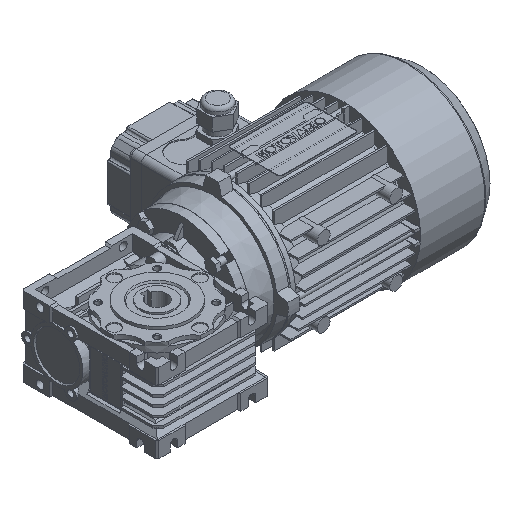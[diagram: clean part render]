
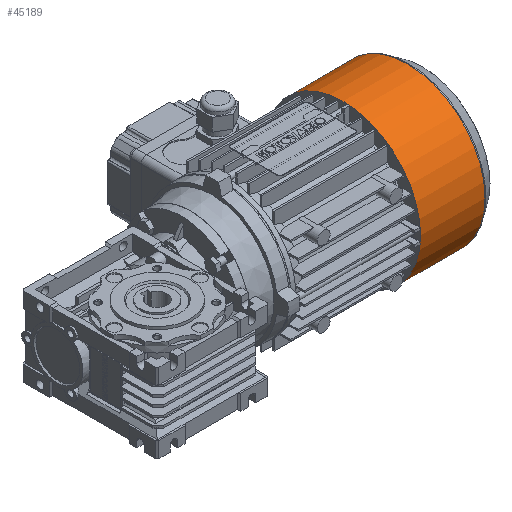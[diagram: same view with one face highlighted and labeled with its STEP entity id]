
A CAD part, isometric view. The second image highlights one B-rep face of the part: STEP entity #45189.
In plain terms, the highlighted cylindrical face has radius 69.45 mm (diameter 138.9 mm), a full revolution.
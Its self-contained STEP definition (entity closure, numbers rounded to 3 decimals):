
#17041=ORIENTED_EDGE('',*,*,#27289,.F.);
#17042=ORIENTED_EDGE('',*,*,#27288,.T.);
#27288=EDGE_CURVE('',#32980,#32980,#36690,.T.);
#27289=EDGE_CURVE('',#32981,#32981,#36691,.T.);
#32980=VERTEX_POINT('',#77769);
#32981=VERTEX_POINT('',#77772);
#36690=CIRCLE('',#55024,69.45);
#36691=CIRCLE('',#55026,69.45);
#38824=EDGE_LOOP('',(#17041));
#38825=EDGE_LOOP('',(#17042));
#41585=FACE_BOUND('',#38824,.T.);
#41586=FACE_BOUND('',#38825,.T.);
#43728=CYLINDRICAL_SURFACE('',#55025,69.45);
#45189=ADVANCED_FACE('',(#41585,#41586),#43728,.T.);
#55024=AXIS2_PLACEMENT_3D('',#77768,#64358,#64359);
#55025=AXIS2_PLACEMENT_3D('',#77770,#64360,#64361);
#55026=AXIS2_PLACEMENT_3D('',#77771,#64362,#64363);
#64358=DIRECTION('',(1.,0.,0.));
#64359=DIRECTION('',(0.,0.,-1.));
#64360=DIRECTION('',(1.,0.,0.));
#64361=DIRECTION('',(0.,0.,-1.));
#64362=DIRECTION('',(1.,0.,0.));
#64363=DIRECTION('',(0.,0.,-1.));
#77768=CARTESIAN_POINT('',(0.,0.,0.));
#77769=CARTESIAN_POINT('',(0.,0.,-69.45));
#77770=CARTESIAN_POINT('',(72.,0.,0.));
#77771=CARTESIAN_POINT('',(57.873,0.,0.));
#77772=CARTESIAN_POINT('',(57.873,0.,-69.45));
